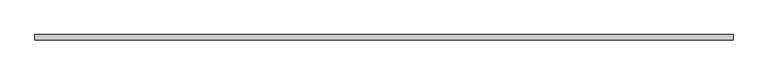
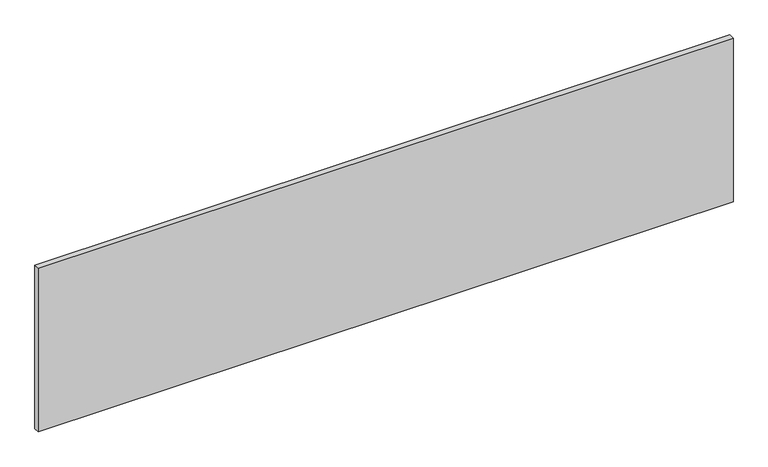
"""IFC4 building model written with IfcOpenShell, lengths in millimetres: proxy geometry, 76 Series Cedar Texture Soffit - Cut-To-Width (Strand) - 11.94 : 76 Series Cedar Texture Soffit – Cut-To-Width (Strand) - 11.94."""

from ifc_helpers import new_model, si_unit, frame, origin, place, context, project, spatial, polyline, outline, extrude, source, transform, mapped, element, save


def generic_models_9e8e3204(model_context):
    return source(origin(), model_context, "Body", "SweptSolid", [
        extrude(outline(polyline([(1219.2, -9.525), (0.0, -9.525), (0.0, 0.0), (1219.2, 0.0), (1219.2, -9.525)])), frame((0.0, 0.0, -303.276), z_axis=(0.0, 0.0, 1.0), x_axis=(1.0, 0.0, 0.0)), (0.0, 0.0, 1.0), 303.276),
    ])


if __name__ == "__main__":
    model = new_model("IFC4")
    model_context = context("Model", 3, world=origin())
    ifc_project = project(units=[si_unit("LENGTHUNIT", "METRE", prefix="MILLI")], contexts=[model_context])
    site = spatial("IfcSite", under=ifc_project)
    building = spatial("IfcBuilding", under=site)
    placement = place(None, origin())
    generic_models_shape = generic_models_9e8e3204(model_context)
    element("IfcBuildingElementProxy", 1, Name="76 Series Cedar Texture Soffit - Cut-To-Width (Strand) - 11.94 : 76 Series Cedar Texture Soffit – Cut-To-Width (Strand) - 11.94", ObjectType="76 Series Cedar Texture Soffit - Cut-To-Width (Strand) - 11.94 : 76 Series Cedar Texture Soffit – Cut-To-Width (Strand) - 11.94", at=placement, inside=building, context=model_context, shape_type="MappedRepresentation", body=[
        mapped(generic_models_shape, transform((0.0, 0.0, 0.0), x_axis=(1.0, 0.0, 0.0), y_axis=(0.0, 1.0, 0.0), z_axis=(0.0, 0.0, 1.0))),
    ])
    save(model, "model.ifc")
